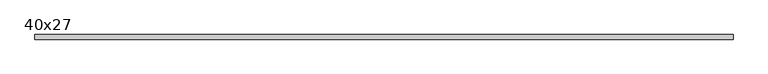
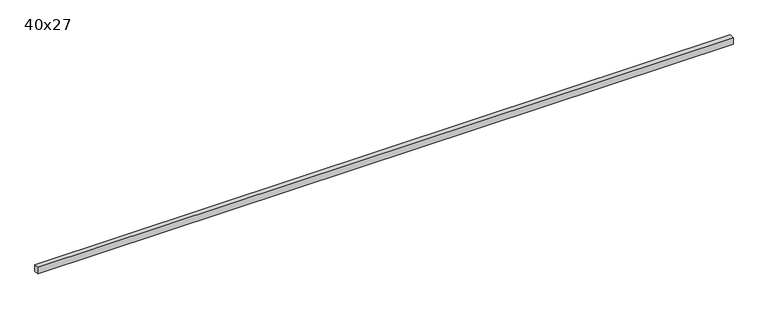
"""IFC4 building model written with IfcOpenShell, lengths in millimetres: beam geometry, Poutre - Bois d'oeuvre : 40x27."""

from ifc_helpers import new_model, si_unit, frame, origin, place, context, project, spatial, polyline, outline, extrude, source, transform, mapped, element, save


def beam_40x27_4b46f52b(model_context):
    return source(origin(), model_context, "Body", "SweptSolid", [
        extrude(outline(polyline([(1960.5241361, 13.5), (1960.5241361, -13.5), (-2079.4758639, -13.5), (-2079.4758639, 13.5), (1960.5241361, 13.5)])), frame((0.0, 0.0, -20.0), z_axis=(0.0, 0.0, 1.0), x_axis=(1.0, 0.0, 0.0)), (0.0, 0.0, 1.0), 40.0),
    ])


if __name__ == "__main__":
    model = new_model("IFC4")
    model_context = context("Model", 3, world=origin())
    ifc_project = project(units=[si_unit("LENGTHUNIT", "METRE", prefix="MILLI")], contexts=[model_context])
    site = spatial("IfcSite", under=ifc_project)
    building = spatial("IfcBuilding", under=site)
    placement = place(None, origin())
    beam_40x27_shape = beam_40x27_4b46f52b(model_context)
    element("IfcBeam", 1, ObjectType="Poutre - Bois d'oeuvre : 40x27", at=placement, inside=building, context=model_context, shape_type="MappedRepresentation", body=[
        mapped(beam_40x27_shape, transform((0.0, 0.0, 0.0), x_axis=(1.0, 0.0, 0.0), y_axis=(0.0, 1.0, 0.0), z_axis=(0.0, 0.0, 1.0))),
    ])
    save(model, "model.ifc")
